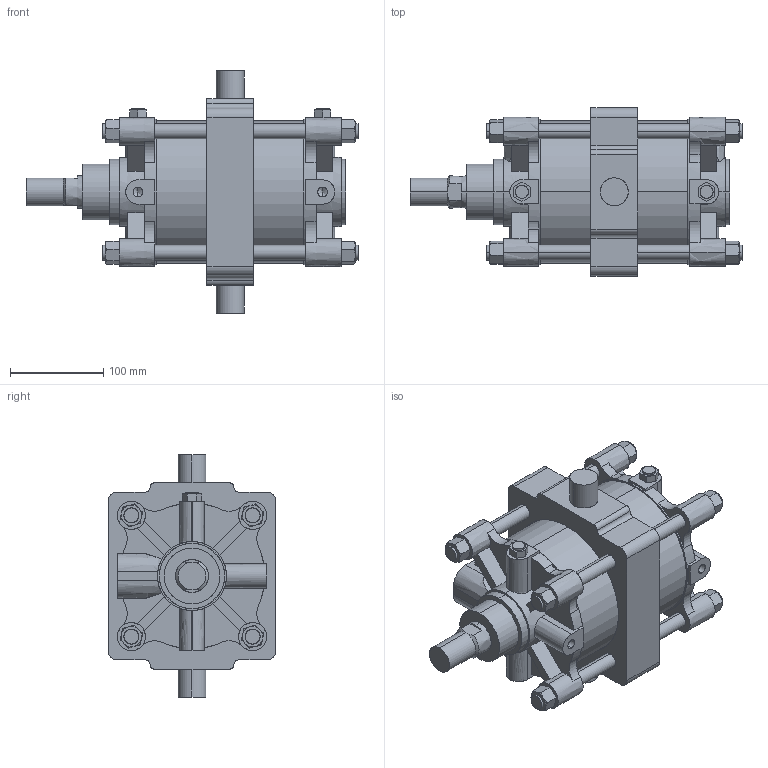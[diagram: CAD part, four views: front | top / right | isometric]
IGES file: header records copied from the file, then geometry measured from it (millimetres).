
Start section: SolidWorks IGES file using analytic representation for surfaces
Global section: file name: C:\Users\Toshiba\Desktop\A##2-140#-100-T.IGS; native system: SolidWorks 2014; preprocessor: SolidWorks 2014; author: Toshiba; date: 160331.145401; units: millimetre
Bounding box: 356 x 180 x 260 mm (x, y, z)
Surface area: 496500.2 mm2 (no closed solid volume)
Topology: 0 solids, 0 shells, 422 faces, 7944 edges, 7932 vertices
Faces by surface type: bspline 258, revolution 164
